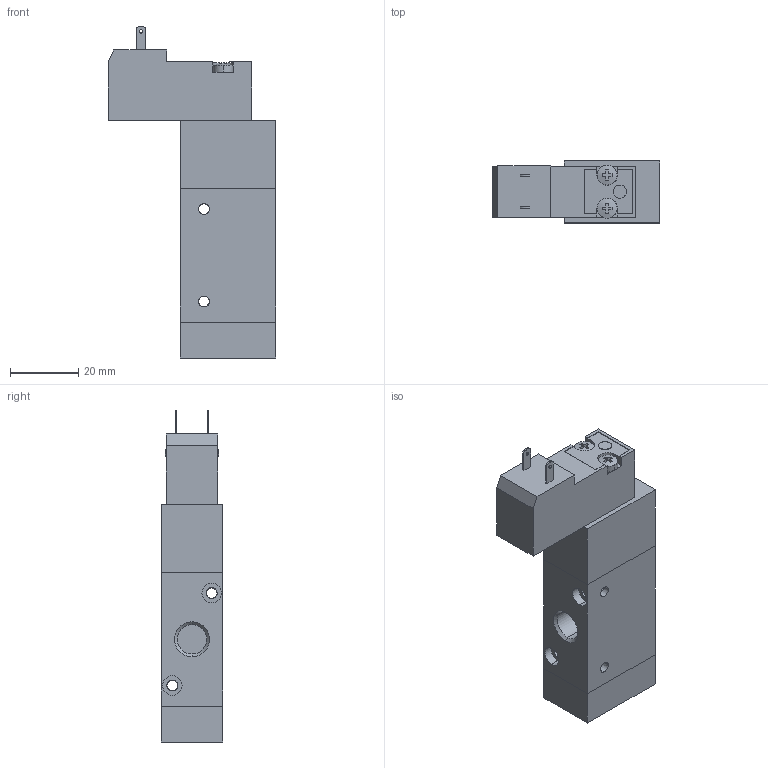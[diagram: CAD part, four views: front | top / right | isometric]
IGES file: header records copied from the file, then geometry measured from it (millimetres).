
Global section: file name: No Iges File Name specified; native system: AutoDesk Inventor R11.0; preprocessor: AutoDesk Inventor Iges Exporter R11.0; author: No Author specified; organization: No Organization specified; date: 20061201.120422; units: millimetre
Bounding box: 49 x 18 x 96.99 mm (x, y, z)
Volume: 44134 mm3; surface area: 13473.6 mm2
Topology: 3 solids, 3 shells, 178 faces, 441 edges, 272 vertices
Faces by surface type: plane 78, bspline 77, revolution 14, cylinder 8, sphere 1
